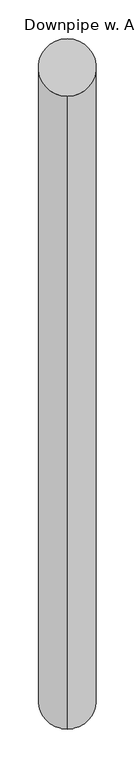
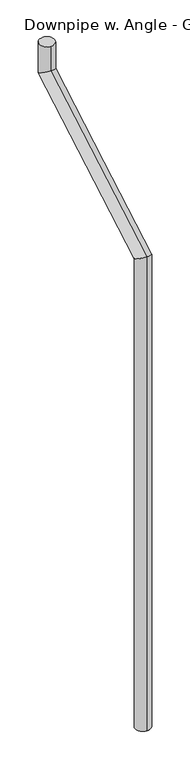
"""IFC4 building model written with IfcOpenShell, lengths in millimetres: proxy geometry, Downpipe w. Angle - Generic - Wall Hosted : 75 mm pipe."""

from ifc_helpers import new_model, si_unit, frame, origin, place, context, project, spatial, circle_curve, ellipse_curve, source, transform, mapped, element, save
from ifc_brep_helpers import plane_surface, cylinder_surface, advanced_brep


def downpipe_w_angle_generic_wall_hosted_75_mm_pipe_f65a7cb1(model_context):
    return source(origin(), model_context, "Body", "AdvancedBrep", [
        advanced_brep(
        [(125.0, 337.5, 0.0), (125.0, 262.5, 0.0), (125.0, 337.5, 2429.9221442), (125.0, 262.5, 2473.2234144), (125.0, 1157.5, 2903.3493649), (125.0, 1082.5, 2946.6506351), (125.0, 1157.5, 3075.0), (125.0, 1082.5, 3075.0)],
        [
            (0, 1, circle_curve(frame((125.0, 300.0, 0.0), z_axis=(0.0, 0.0, -1.0), x_axis=(0.0, -1.0, 0.0)), 37.5)),
            (1, 0, circle_curve(frame((125.0, 300.0, 0.0), z_axis=(0.0, 0.0, -1.0), x_axis=(0.0, -1.0, 0.0)), 37.5)),
            (0, 2),
            (2, 3, ellipse_curve(frame((125.0, 300.0, 2451.5727793), z_axis=(0.0, -0.5000000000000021, -0.8660254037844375), x_axis=(0.0, 0.8660254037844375, -0.5000000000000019)), 43.3012702, 37.5)),
            (3, 1),
            (3, 2, ellipse_curve(frame((125.0, 300.0, 2451.5727793), z_axis=(0.0, -0.5000000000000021, -0.8660254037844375), x_axis=(0.0, 0.8660254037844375, -0.5000000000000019)), 43.3012702, 37.5)),
            (2, 4),
            (4, 5, ellipse_curve(frame((125.0, 1120.0, 2925.0), z_axis=(0.0, -0.500000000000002, -0.8660254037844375), x_axis=(0.0, -0.8660254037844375, 0.500000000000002)), 43.3012702, 37.5)),
            (5, 3),
            (5, 4, ellipse_curve(frame((125.0, 1120.0, 2925.0), z_axis=(0.0, -0.500000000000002, -0.8660254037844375), x_axis=(0.0, -0.8660254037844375, 0.500000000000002)), 43.3012702, 37.5)),
            (6, 7, circle_curve(frame((125.0, 1120.0, 3075.0), z_axis=(0.0, 0.0, 1.0), x_axis=(0.0, -1.0, 0.0)), 37.5)),
            (7, 6, circle_curve(frame((125.0, 1120.0, 3075.0), z_axis=(0.0, 0.0, 1.0), x_axis=(0.0, -1.0, 0.0)), 37.5)),
            (4, 6),
            (7, 5),
        ],
        [
            plane_surface(frame((125.0, 300.0, 0.0), z_axis=(0.0, 0.0, -1.0), x_axis=(1.0, 0.0, 0.0))),
            cylinder_surface(frame((125.0, 300.0, 0.0), z_axis=(0.0, 0.0, -1.0), x_axis=(0.0, -1.0, 0.0)), 37.5),
            cylinder_surface(frame((125.0, 300.0, 2451.5727793), z_axis=(0.0, -0.8660254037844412, -0.4999999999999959), x_axis=(0.0, -0.4999999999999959, 0.8660254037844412)), 37.5),
            plane_surface(frame((125.0, 1120.0, 3075.0), z_axis=(0.0, 0.0, 1.0), x_axis=(1.0, 0.0, 0.0))),
            cylinder_surface(frame((125.0, 1120.0, 2925.0), z_axis=(0.0, 0.0, -1.0), x_axis=(0.0, -1.0, 0.0)), 37.5),
        ],
        [
            (0, [[1, 2]]),
            (1, [[-1, 3, 4, 5]]),
            (1, [[-2, -5, 6, -3]]),
            (2, [[-4, 7, 8, 9]]),
            (2, [[-6, -9, 10, -7]]),
            (3, [[11, 12]]),
            (4, [[-8, 13, -12, 14]]),
            (4, [[-10, -14, -11, -13]]),
        ],
    ),
    ])


if __name__ == "__main__":
    model = new_model("IFC4")
    model_context = context("Model", 3, world=origin())
    ifc_project = project(units=[si_unit("LENGTHUNIT", "METRE", prefix="MILLI")], contexts=[model_context])
    site = spatial("IfcSite", under=ifc_project)
    building = spatial("IfcBuilding", under=site)
    placement = place(None, origin())
    downpipe_w_angle_generic_wall_hosted_75_mm_pipe_shape = downpipe_w_angle_generic_wall_hosted_75_mm_pipe_f65a7cb1(model_context)
    element("IfcBuildingElementProxy", 1, Name="Downpipe w. Angle - Generic - Wall Hosted : 75 mm pipe", ObjectType="Downpipe w. Angle - Generic - Wall Hosted : 75 mm pipe", at=placement, inside=building, context=model_context, shape_type="MappedRepresentation", body=[
        mapped(downpipe_w_angle_generic_wall_hosted_75_mm_pipe_shape, transform((0.0, 0.0, 0.0), x_axis=(1.0, 0.0, 0.0), y_axis=(0.0, 1.0, 0.0), z_axis=(0.0, 0.0, 1.0))),
    ])
    save(model, "model.ifc")
